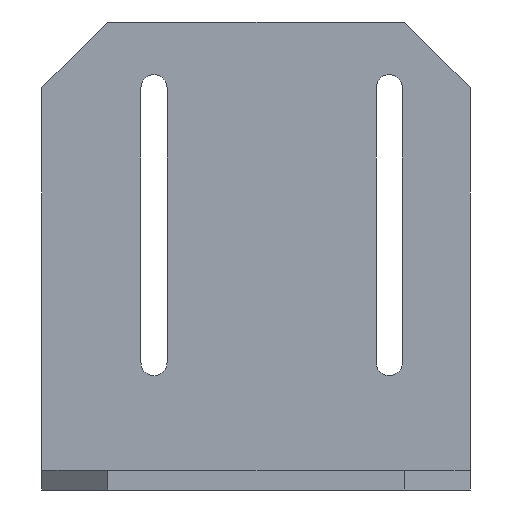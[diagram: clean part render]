
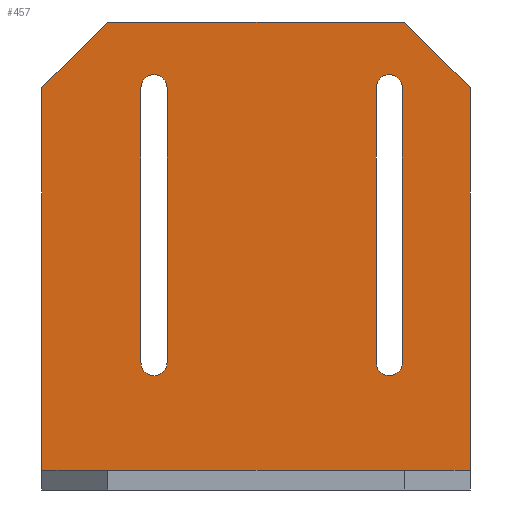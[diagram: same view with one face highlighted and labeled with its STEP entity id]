
A CAD part, front view. The second image highlights one B-rep face of the part: STEP entity #457.
In plain terms, the highlighted planar face has unit normal (0, -1, 0) as drawn and (0, 0, -1) by its records, which use the part's own axes.
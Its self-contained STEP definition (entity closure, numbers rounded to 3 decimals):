
#11 = FACE_OUTER_BOUND ( 'NONE', #87, .T. ) ;
#13 = LINE ( 'NONE', #942, #770 ) ;
#23 = VERTEX_POINT ( 'NONE', #179 ) ;
#24 = CARTESIAN_POINT ( 'NONE',  ( -32.5, -34., 0. ) ) ;
#25 = EDGE_CURVE ( 'NONE', #732, #694, #68, .T. ) ;
#31 = DIRECTION ( 'NONE',  ( -1., 0., 0. ) ) ;
#46 = DIRECTION ( 'NONE',  ( -1., 0., 0. ) ) ;
#47 = DIRECTION ( 'NONE',  ( -0.707, -0.707, 0. ) ) ;
#60 = ORIENTED_EDGE ( 'NONE', *, *, #1181, .F. ) ;
#62 = CIRCLE ( 'NONE', #934, 1.979 ) ;
#68 = LINE ( 'NONE', #84, #1088 ) ;
#83 = VECTOR ( 'NONE', #86, 1000. ) ;
#84 = CARTESIAN_POINT ( 'NONE',  ( 32.5, -34., 0. ) ) ;
#86 = DIRECTION ( 'NONE',  ( 0., -1., 0. ) ) ;
#87 = EDGE_LOOP ( 'NONE', ( #534, #615, #148, #726, #628, #151 ) ) ;
#99 = EDGE_CURVE ( 'NONE', #708, #23, #13, .T. ) ;
#105 = CARTESIAN_POINT ( 'NONE',  ( -22.5, -34., 0. ) ) ;
#107 = CARTESIAN_POINT ( 'NONE',  ( 18.242, -24.021, 0. ) ) ;
#113 = CIRCLE ( 'NONE', #463, 1.979 ) ;
#121 = LINE ( 'NONE', #375, #1029 ) ;
#142 = VERTEX_POINT ( 'NONE', #107 ) ;
#148 = ORIENTED_EDGE ( 'NONE', *, *, #1116, .F. ) ;
#149 = CARTESIAN_POINT ( 'NONE',  ( -13.5, 17.679, 0. ) ) ;
#151 = ORIENTED_EDGE ( 'NONE', *, *, #1204, .T. ) ;
#153 = VERTEX_POINT ( 'NONE', #193 ) ;
#157 = VECTOR ( 'NONE', #219, 1000. ) ;
#179 = CARTESIAN_POINT ( 'NONE',  ( -17.458, 17.679, 0. ) ) ;
#193 = CARTESIAN_POINT ( 'NONE',  ( 22.2, 17.679, 0. ) ) ;
#195 = ORIENTED_EDGE ( 'NONE', *, *, #786, .F. ) ;
#219 = DIRECTION ( 'NONE',  ( 0., 1., 0. ) ) ;
#247 = DIRECTION ( 'NONE',  ( -0.707, 0.707, 0. ) ) ;
#265 = CARTESIAN_POINT ( 'NONE',  ( -32.5, -34., 0. ) ) ;
#285 = VECTOR ( 'NONE', #670, 1000. ) ;
#324 = CARTESIAN_POINT ( 'NONE',  ( 20.221, -24.021, 0. ) ) ;
#358 = DIRECTION ( 'NONE',  ( 0., 1., 0. ) ) ;
#366 = ORIENTED_EDGE ( 'NONE', *, *, #99, .F. ) ;
#375 = CARTESIAN_POINT ( 'NONE',  ( -32.5, 34., 0. ) ) ;
#382 = ORIENTED_EDGE ( 'NONE', *, *, #986, .F. ) ;
#383 = DIRECTION ( 'NONE',  ( -1., 0., 0. ) ) ;
#385 = DIRECTION ( 'NONE',  ( 0., 1., 0. ) ) ;
#386 = CARTESIAN_POINT ( 'NONE',  ( -28.25, -28.25, 0. ) ) ;
#398 = CIRCLE ( 'NONE', #1224, 1.979 ) ;
#416 = DIRECTION ( 'NONE',  ( 0., -1., 0. ) ) ;
#418 = AXIS2_PLACEMENT_3D ( 'NONE', #1003, #433, #46 ) ;
#433 = DIRECTION ( 'NONE',  ( 0., 0., -1. ) ) ;
#436 = VERTEX_POINT ( 'NONE', #556 ) ;
#441 = VECTOR ( 'NONE', #665, 1000. ) ;
#448 = DIRECTION ( 'NONE',  ( 0., 0., -1. ) ) ;
#457 = ADVANCED_FACE ( 'NONE', ( #485, #855, #11 ), #601, .T. ) ;
#462 = CARTESIAN_POINT ( 'NONE',  ( 22.5, -34., 0. ) ) ;
#463 = AXIS2_PLACEMENT_3D ( 'NONE', #324, #514, #31 ) ;
#485 = FACE_BOUND ( 'NONE', #506, .T. ) ;
#503 = CARTESIAN_POINT ( 'NONE',  ( -13.5, 17.679, 0. ) ) ;
#506 = EDGE_LOOP ( 'NONE', ( #958, #60, #910, #195 ) ) ;
#513 = VERTEX_POINT ( 'NONE', #462 ) ;
#514 = DIRECTION ( 'NONE',  ( 0., 0., -1. ) ) ;
#527 = CARTESIAN_POINT ( 'NONE',  ( 18.242, 17.679, 0. ) ) ;
#534 = ORIENTED_EDGE ( 'NONE', *, *, #846, .F. ) ;
#547 = EDGE_CURVE ( 'NONE', #1000, #153, #62, .T. ) ;
#556 = CARTESIAN_POINT ( 'NONE',  ( -13.5, -24.021, 0. ) ) ;
#593 = VECTOR ( 'NONE', #47, 1000. ) ;
#601 = PLANE ( 'NONE',  #1017 ) ;
#605 = CARTESIAN_POINT ( 'NONE',  ( -32.5, -24., 0. ) ) ;
#615 = ORIENTED_EDGE ( 'NONE', *, *, #1091, .T. ) ;
#617 = VECTOR ( 'NONE', #416, 1000. ) ;
#627 = CARTESIAN_POINT ( 'NONE',  ( 20.221, 17.679, 0. ) ) ;
#628 = ORIENTED_EDGE ( 'NONE', *, *, #25, .F. ) ;
#633 = ORIENTED_EDGE ( 'NONE', *, *, #641, .F. ) ;
#641 = EDGE_CURVE ( 'NONE', #23, #1157, #945, .T. ) ;
#665 = DIRECTION ( 'NONE',  ( 0., -1., 0. ) ) ;
#670 = DIRECTION ( 'NONE',  ( 1., 0., 0. ) ) ;
#674 = LINE ( 'NONE', #703, #157 ) ;
#684 = LINE ( 'NONE', #24, #285 ) ;
#694 = VERTEX_POINT ( 'NONE', #912 ) ;
#703 = CARTESIAN_POINT ( 'NONE',  ( 18.242, 17.679, 0. ) ) ;
#708 = VERTEX_POINT ( 'NONE', #832 ) ;
#718 = DIRECTION ( 'NONE',  ( -1., 0., 0. ) ) ;
#726 = ORIENTED_EDGE ( 'NONE', *, *, #843, .F. ) ;
#732 = VERTEX_POINT ( 'NONE', #748 ) ;
#735 = DIRECTION ( 'NONE',  ( 0., 0., -1. ) ) ;
#748 = CARTESIAN_POINT ( 'NONE',  ( 32.5, -24., 0. ) ) ;
#749 = EDGE_CURVE ( 'NONE', #436, #708, #398, .T. ) ;
#770 = VECTOR ( 'NONE', #385, 1000. ) ;
#786 = EDGE_CURVE ( 'NONE', #153, #1059, #938, .T. ) ;
#825 = LINE ( 'NONE', #265, #441 ) ;
#832 = CARTESIAN_POINT ( 'NONE',  ( -17.458, -24.021, 0. ) ) ;
#843 = EDGE_CURVE ( 'NONE', #694, #881, #121, .T. ) ;
#846 = EDGE_CURVE ( 'NONE', #900, #513, #684, .T. ) ;
#855 = FACE_BOUND ( 'NONE', #1070, .T. ) ;
#881 = VERTEX_POINT ( 'NONE', #1158 ) ;
#884 = LINE ( 'NONE', #1061, #593 ) ;
#900 = VERTEX_POINT ( 'NONE', #105 ) ;
#905 = VERTEX_POINT ( 'NONE', #605 ) ;
#910 = ORIENTED_EDGE ( 'NONE', *, *, #940, .F. ) ;
#912 = CARTESIAN_POINT ( 'NONE',  ( 32.5, 34., 0. ) ) ;
#914 = CARTESIAN_POINT ( 'NONE',  ( 0., 0., 0. ) ) ;
#933 = VECTOR ( 'NONE', #247, 1000. ) ;
#934 = AXIS2_PLACEMENT_3D ( 'NONE', #627, #448, #718 ) ;
#938 = LINE ( 'NONE', #1118, #83 ) ;
#940 = EDGE_CURVE ( 'NONE', #1059, #142, #113, .T. ) ;
#942 = CARTESIAN_POINT ( 'NONE',  ( -17.458, 17.679, 0. ) ) ;
#945 = CIRCLE ( 'NONE', #418, 1.979 ) ;
#954 = CARTESIAN_POINT ( 'NONE',  ( 22.2, -24.021, 0. ) ) ;
#958 = ORIENTED_EDGE ( 'NONE', *, *, #547, .F. ) ;
#962 = ORIENTED_EDGE ( 'NONE', *, *, #749, .F. ) ;
#986 = EDGE_CURVE ( 'NONE', #1157, #436, #1007, .T. ) ;
#989 = DIRECTION ( 'NONE',  ( -1., 0., 0. ) ) ;
#1000 = VERTEX_POINT ( 'NONE', #527 ) ;
#1003 = CARTESIAN_POINT ( 'NONE',  ( -15.479, 17.679, 0. ) ) ;
#1007 = LINE ( 'NONE', #149, #617 ) ;
#1017 = AXIS2_PLACEMENT_3D ( 'NONE', #914, #1186, #989 ) ;
#1026 = LINE ( 'NONE', #386, #933 ) ;
#1029 = VECTOR ( 'NONE', #383, 1000. ) ;
#1059 = VERTEX_POINT ( 'NONE', #954 ) ;
#1061 = CARTESIAN_POINT ( 'NONE',  ( 28.25, -28.25, 0. ) ) ;
#1070 = EDGE_LOOP ( 'NONE', ( #633, #366, #962, #382 ) ) ;
#1088 = VECTOR ( 'NONE', #358, 1000. ) ;
#1091 = EDGE_CURVE ( 'NONE', #900, #905, #1026, .T. ) ;
#1116 = EDGE_CURVE ( 'NONE', #881, #905, #825, .T. ) ;
#1118 = CARTESIAN_POINT ( 'NONE',  ( 22.2, 17.679, 0. ) ) ;
#1120 = DIRECTION ( 'NONE',  ( -1., 0., 0. ) ) ;
#1157 = VERTEX_POINT ( 'NONE', #503 ) ;
#1158 = CARTESIAN_POINT ( 'NONE',  ( -32.5, 34., 0. ) ) ;
#1181 = EDGE_CURVE ( 'NONE', #142, #1000, #674, .T. ) ;
#1186 = DIRECTION ( 'NONE',  ( 0., 0., -1. ) ) ;
#1204 = EDGE_CURVE ( 'NONE', #732, #513, #884, .T. ) ;
#1210 = CARTESIAN_POINT ( 'NONE',  ( -15.479, -24.021, 0. ) ) ;
#1224 = AXIS2_PLACEMENT_3D ( 'NONE', #1210, #735, #1120 ) ;
